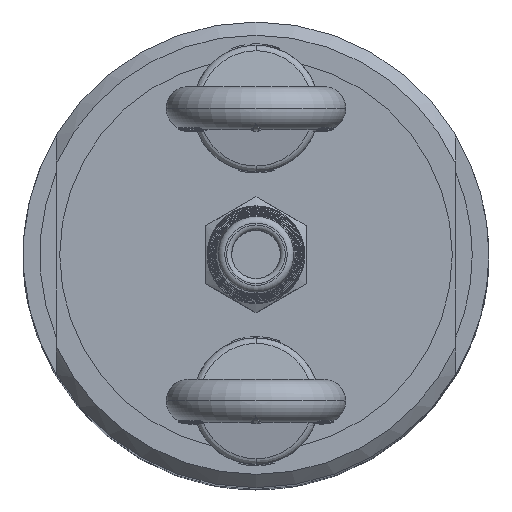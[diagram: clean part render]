
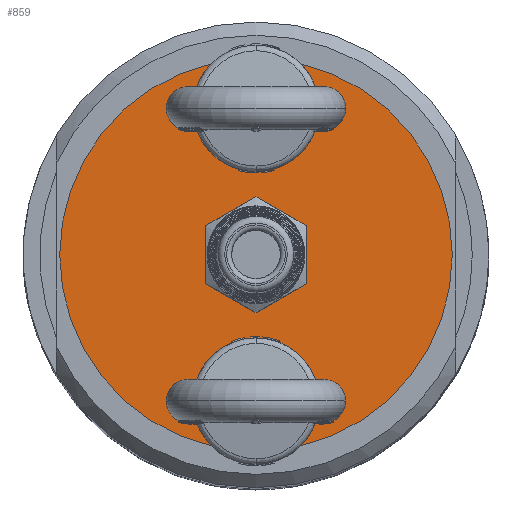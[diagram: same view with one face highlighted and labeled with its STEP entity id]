
A CAD part, top view. The second image highlights one B-rep face of the part: STEP entity #859.
In plain terms, the highlighted planar face has unit normal (0, 0, 1).
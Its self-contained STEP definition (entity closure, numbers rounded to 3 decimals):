
#358 = EDGE_CURVE('',#359,#361,#363,.T.);
#359 = VERTEX_POINT('',#360);
#360 = CARTESIAN_POINT('',(6.708,-28.727,100.));
#361 = VERTEX_POINT('',#362);
#362 = CARTESIAN_POINT('',(29.5,0.,100.));
#363 = CIRCLE('',#364,29.5);
#364 = AXIS2_PLACEMENT_3D('',#365,#366,#367);
#365 = CARTESIAN_POINT('',(0.,0.,100.));
#366 = DIRECTION('',(0.,0.,1.));
#367 = DIRECTION('',(1.,0.,0.));
#379 = VERTEX_POINT('',#380);
#380 = CARTESIAN_POINT('',(-6.708,-28.727,100.));
#387 = EDGE_CURVE('',#388,#379,#390,.T.);
#388 = VERTEX_POINT('',#389);
#389 = CARTESIAN_POINT('',(-6.708,28.727,100.));
#390 = CIRCLE('',#391,29.5);
#391 = AXIS2_PLACEMENT_3D('',#392,#393,#394);
#392 = CARTESIAN_POINT('',(0.,0.,100.));
#393 = DIRECTION('',(0.,0.,1.));
#394 = DIRECTION('',(1.,0.,0.));
#406 = VERTEX_POINT('',#407);
#407 = CARTESIAN_POINT('',(6.708,28.727,100.));
#414 = EDGE_CURVE('',#361,#406,#415,.T.);
#415 = CIRCLE('',#416,29.5);
#416 = AXIS2_PLACEMENT_3D('',#417,#418,#419);
#417 = CARTESIAN_POINT('',(0.,0.,100.));
#418 = DIRECTION('',(0.,0.,1.));
#419 = DIRECTION('',(1.,0.,0.));
#859 = ADVANCED_FACE('',(#860,#897),#947,.T.);
#860 = FACE_BOUND('',#861,.T.);
#861 = EDGE_LOOP('',(#862,#871,#878,#879,#880,#889,#896));
#862 = ORIENTED_EDGE('',*,*,#863,.T.);
#863 = EDGE_CURVE('',#379,#864,#866,.T.);
#864 = VERTEX_POINT('',#865);
#865 = CARTESIAN_POINT('',(0.,-12.5,100.));
#866 = CIRCLE('',#867,9.5);
#867 = AXIS2_PLACEMENT_3D('',#868,#869,#870);
#868 = CARTESIAN_POINT('',(0.,-22.,100.));
#869 = DIRECTION('',(0.,0.,-1.));
#870 = DIRECTION('',(0.,1.,0.));
#871 = ORIENTED_EDGE('',*,*,#872,.T.);
#872 = EDGE_CURVE('',#864,#359,#873,.T.);
#873 = CIRCLE('',#874,9.5);
#874 = AXIS2_PLACEMENT_3D('',#875,#876,#877);
#875 = CARTESIAN_POINT('',(0.,-22.,100.));
#876 = DIRECTION('',(0.,0.,-1.));
#877 = DIRECTION('',(0.,1.,0.));
#878 = ORIENTED_EDGE('',*,*,#358,.T.);
#879 = ORIENTED_EDGE('',*,*,#414,.T.);
#880 = ORIENTED_EDGE('',*,*,#881,.T.);
#881 = EDGE_CURVE('',#406,#882,#884,.T.);
#882 = VERTEX_POINT('',#883);
#883 = CARTESIAN_POINT('',(0.,12.5,100.));
#884 = CIRCLE('',#885,9.5);
#885 = AXIS2_PLACEMENT_3D('',#886,#887,#888);
#886 = CARTESIAN_POINT('',(0.,22.,100.));
#887 = DIRECTION('',(0.,0.,-1.));
#888 = DIRECTION('',(0.,1.,0.));
#889 = ORIENTED_EDGE('',*,*,#890,.T.);
#890 = EDGE_CURVE('',#882,#388,#891,.T.);
#891 = CIRCLE('',#892,9.5);
#892 = AXIS2_PLACEMENT_3D('',#893,#894,#895);
#893 = CARTESIAN_POINT('',(0.,22.,100.));
#894 = DIRECTION('',(0.,0.,-1.));
#895 = DIRECTION('',(0.,1.,0.));
#896 = ORIENTED_EDGE('',*,*,#387,.T.);
#897 = FACE_BOUND('',#898,.T.);
#898 = EDGE_LOOP('',(#899,#909,#917,#925,#933,#941));
#899 = ORIENTED_EDGE('',*,*,#900,.T.);
#900 = EDGE_CURVE('',#901,#903,#905,.T.);
#901 = VERTEX_POINT('',#902);
#902 = CARTESIAN_POINT('',(7.55,4.359,100.));
#903 = VERTEX_POINT('',#904);
#904 = CARTESIAN_POINT('',(7.55,-4.359,100.));
#905 = LINE('',#906,#907);
#906 = CARTESIAN_POINT('',(7.55,4.359,100.));
#907 = VECTOR('',#908,1.);
#908 = DIRECTION('',(0.,-1.,0.));
#909 = ORIENTED_EDGE('',*,*,#910,.T.);
#910 = EDGE_CURVE('',#903,#911,#913,.T.);
#911 = VERTEX_POINT('',#912);
#912 = CARTESIAN_POINT('',(0.,-8.718,100.));
#913 = LINE('',#914,#915);
#914 = CARTESIAN_POINT('',(7.55,-4.359,100.));
#915 = VECTOR('',#916,1.);
#916 = DIRECTION('',(-0.866,-0.5,0.));
#917 = ORIENTED_EDGE('',*,*,#918,.T.);
#918 = EDGE_CURVE('',#911,#919,#921,.T.);
#919 = VERTEX_POINT('',#920);
#920 = CARTESIAN_POINT('',(-7.55,-4.359,100.));
#921 = LINE('',#922,#923);
#922 = CARTESIAN_POINT('',(0.,-8.718,100.));
#923 = VECTOR('',#924,1.);
#924 = DIRECTION('',(-0.866,0.5,0.));
#925 = ORIENTED_EDGE('',*,*,#926,.T.);
#926 = EDGE_CURVE('',#919,#927,#929,.T.);
#927 = VERTEX_POINT('',#928);
#928 = CARTESIAN_POINT('',(-7.55,4.359,100.));
#929 = LINE('',#930,#931);
#930 = CARTESIAN_POINT('',(-7.55,-4.359,100.));
#931 = VECTOR('',#932,1.);
#932 = DIRECTION('',(0.,1.,0.));
#933 = ORIENTED_EDGE('',*,*,#934,.T.);
#934 = EDGE_CURVE('',#927,#935,#937,.T.);
#935 = VERTEX_POINT('',#936);
#936 = CARTESIAN_POINT('',(0.,8.718,100.));
#937 = LINE('',#938,#939);
#938 = CARTESIAN_POINT('',(-7.55,4.359,100.));
#939 = VECTOR('',#940,1.);
#940 = DIRECTION('',(0.866,0.5,0.));
#941 = ORIENTED_EDGE('',*,*,#942,.T.);
#942 = EDGE_CURVE('',#935,#901,#943,.T.);
#943 = LINE('',#944,#945);
#944 = CARTESIAN_POINT('',(0.,8.718,100.));
#945 = VECTOR('',#946,1.);
#946 = DIRECTION('',(0.866,-0.5,0.));
#947 = PLANE('',#948);
#948 = AXIS2_PLACEMENT_3D('',#949,#950,#951);
#949 = CARTESIAN_POINT('',(0.,0.,100.));
#950 = DIRECTION('',(0.,0.,1.));
#951 = DIRECTION('',(1.,0.,0.));
